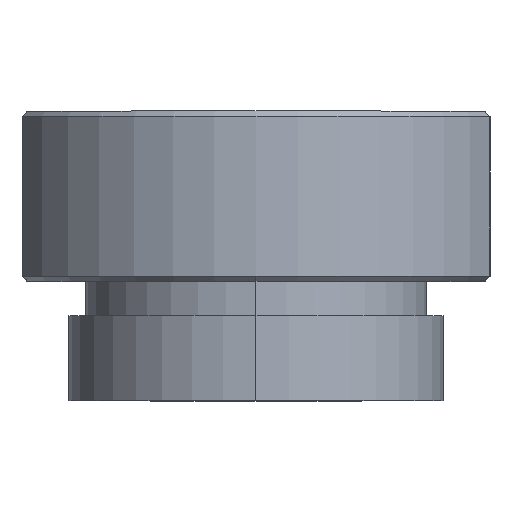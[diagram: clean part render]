
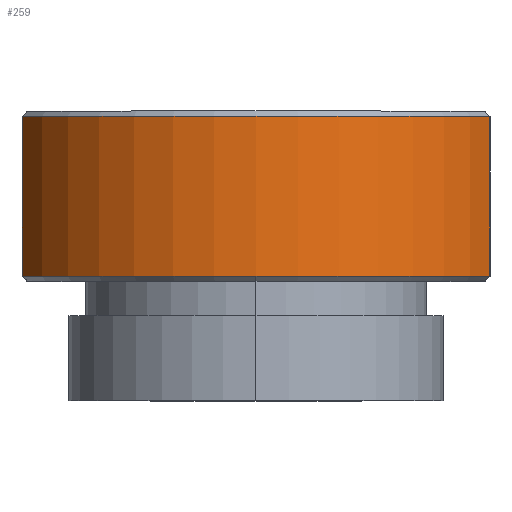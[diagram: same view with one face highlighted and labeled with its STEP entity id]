
A CAD part, top view. The second image highlights one B-rep face of the part: STEP entity #259.
In plain terms, the highlighted cylindrical face has radius 15 mm (diameter 30 mm), a partial arc.
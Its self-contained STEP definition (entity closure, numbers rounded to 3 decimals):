
#37 = LINE ( 'NONE', #137, #240 ) ;
#43 = VERTEX_POINT ( 'NONE', #1064 ) ;
#98 = CARTESIAN_POINT ( 'NONE',  ( 0., 9.7, 0. ) ) ;
#115 = ORIENTED_EDGE ( 'NONE', *, *, #824, .T. ) ;
#117 = AXIS2_PLACEMENT_3D ( 'NONE', #911, #297, #986 ) ;
#137 = CARTESIAN_POINT ( 'NONE',  ( -13.748, 10., 6. ) ) ;
#143 = FACE_OUTER_BOUND ( 'NONE', #1067, .T. ) ;
#176 = AXIS2_PLACEMENT_3D ( 'NONE', #403, #747, #327 ) ;
#182 = CARTESIAN_POINT ( 'NONE',  ( 13.748, 9.7, 6. ) ) ;
#208 = VECTOR ( 'NONE', #427, 1000. ) ;
#240 = VECTOR ( 'NONE', #476, 1000. ) ;
#259 = ADVANCED_FACE ( 'NONE', ( #143 ), #599, .T. ) ;
#266 = CARTESIAN_POINT ( 'NONE',  ( -13.748, 0.3, 6. ) ) ;
#297 = DIRECTION ( 'NONE',  ( 0., 1., 0. ) ) ;
#301 = CIRCLE ( 'NONE', #176, 15. ) ;
#305 = DIRECTION ( 'NONE',  ( 0., 0., -1. ) ) ;
#327 = DIRECTION ( 'NONE',  ( 0., 0., 1. ) ) ;
#387 = CARTESIAN_POINT ( 'NONE',  ( 13.748, 0.3, 6. ) ) ;
#403 = CARTESIAN_POINT ( 'NONE',  ( 0., 0.3, 0. ) ) ;
#427 = DIRECTION ( 'NONE',  ( 0., 1., 0. ) ) ;
#444 = DIRECTION ( 'NONE',  ( 0., -1., 0. ) ) ;
#450 = EDGE_CURVE ( 'NONE', #655, #43, #37, .T. ) ;
#464 = AXIS2_PLACEMENT_3D ( 'NONE', #98, #444, #512 ) ;
#471 = CIRCLE ( 'NONE', #117, 15. ) ;
#476 = DIRECTION ( 'NONE',  ( 0., 1., 0. ) ) ;
#477 = ORIENTED_EDGE ( 'NONE', *, *, #450, .F. ) ;
#479 = ORIENTED_EDGE ( 'NONE', *, *, #633, .T. ) ;
#497 = EDGE_CURVE ( 'NONE', #785, #631, #622, .T. ) ;
#509 = CARTESIAN_POINT ( 'NONE',  ( 0., 0.3, 15. ) ) ;
#512 = DIRECTION ( 'NONE',  ( 0., 0., 1. ) ) ;
#599 = CYLINDRICAL_SURFACE ( 'NONE', #1045, 15. ) ;
#622 = LINE ( 'NONE', #749, #208 ) ;
#631 = VERTEX_POINT ( 'NONE', #182 ) ;
#633 = EDGE_CURVE ( 'NONE', #631, #43, #807, .T. ) ;
#655 = VERTEX_POINT ( 'NONE', #266 ) ;
#747 = DIRECTION ( 'NONE',  ( 0., 1., 0. ) ) ;
#749 = CARTESIAN_POINT ( 'NONE',  ( 13.748, 10., 6. ) ) ;
#775 = EDGE_CURVE ( 'NONE', #936, #785, #471, .T. ) ;
#785 = VERTEX_POINT ( 'NONE', #387 ) ;
#794 = ORIENTED_EDGE ( 'NONE', *, *, #775, .T. ) ;
#807 = CIRCLE ( 'NONE', #464, 15. ) ;
#824 = EDGE_CURVE ( 'NONE', #655, #936, #301, .T. ) ;
#911 = CARTESIAN_POINT ( 'NONE',  ( 0., 0.3, 0. ) ) ;
#919 = ORIENTED_EDGE ( 'NONE', *, *, #497, .T. ) ;
#936 = VERTEX_POINT ( 'NONE', #509 ) ;
#986 = DIRECTION ( 'NONE',  ( 0., 0., 1. ) ) ;
#987 = CARTESIAN_POINT ( 'NONE',  ( 0., 10., 0. ) ) ;
#1045 = AXIS2_PLACEMENT_3D ( 'NONE', #987, #1084, #305 ) ;
#1064 = CARTESIAN_POINT ( 'NONE',  ( -13.748, 9.7, 6. ) ) ;
#1067 = EDGE_LOOP ( 'NONE', ( #477, #115, #794, #919, #479 ) ) ;
#1084 = DIRECTION ( 'NONE',  ( 0., -1., 0. ) ) ;
